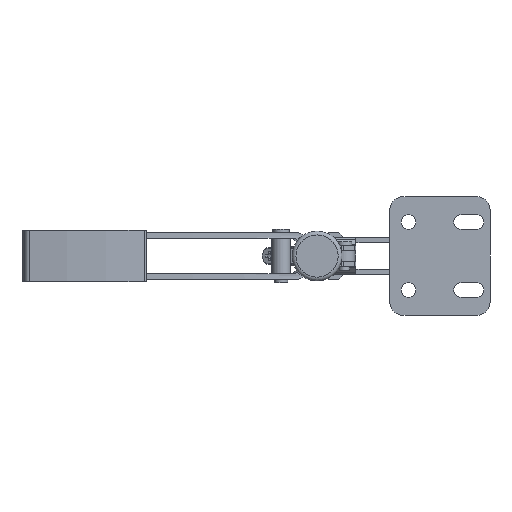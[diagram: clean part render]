
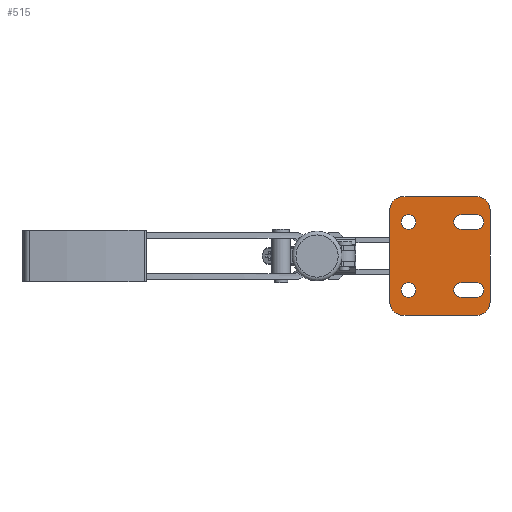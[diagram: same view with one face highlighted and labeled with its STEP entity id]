
A CAD part, left-side view. The second image highlights one B-rep face of the part: STEP entity #515.
In plain terms, the highlighted planar face has unit normal (-1, 0, 0).
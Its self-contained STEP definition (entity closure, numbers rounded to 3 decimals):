
#515 = ADVANCED_FACE( '', ( #1055, #1056, #1057, #1058, #1059 ), #1060, .T. );
#1055 = FACE_BOUND( '', #2075, .T. );
#1056 = FACE_BOUND( '', #2076, .T. );
#1057 = FACE_BOUND( '', #2077, .T. );
#1058 = FACE_BOUND( '', #2078, .T. );
#1059 = FACE_OUTER_BOUND( '', #2079, .T. );
#1060 = PLANE( '', #2080 );
#2075 = EDGE_LOOP( '', ( #3743 ) );
#2076 = EDGE_LOOP( '', ( #3744 ) );
#2077 = EDGE_LOOP( '', ( #3745, #3746, #3747, #3748 ) );
#2078 = EDGE_LOOP( '', ( #3749, #3750, #3751, #3752 ) );
#2079 = EDGE_LOOP( '', ( #3753, #3754, #3755, #3756, #3757, #3758, #3759, #3760 ) );
#2080 = AXIS2_PLACEMENT_3D( '', #3761, #3762, #3763 );
#3743 = ORIENTED_EDGE( '', *, *, #6968, .F. );
#3744 = ORIENTED_EDGE( '', *, *, #6969, .F. );
#3745 = ORIENTED_EDGE( '', *, *, #6970, .F. );
#3746 = ORIENTED_EDGE( '', *, *, #6971, .F. );
#3747 = ORIENTED_EDGE( '', *, *, #6972, .F. );
#3748 = ORIENTED_EDGE( '', *, *, #6973, .F. );
#3749 = ORIENTED_EDGE( '', *, *, #6974, .F. );
#3750 = ORIENTED_EDGE( '', *, *, #6975, .F. );
#3751 = ORIENTED_EDGE( '', *, *, #6976, .F. );
#3752 = ORIENTED_EDGE( '', *, *, #6977, .F. );
#3753 = ORIENTED_EDGE( '', *, *, #6978, .T. );
#3754 = ORIENTED_EDGE( '', *, *, #6979, .T. );
#3755 = ORIENTED_EDGE( '', *, *, #6980, .T. );
#3756 = ORIENTED_EDGE( '', *, *, #6981, .T. );
#3757 = ORIENTED_EDGE( '', *, *, #6982, .T. );
#3758 = ORIENTED_EDGE( '', *, *, #6983, .T. );
#3759 = ORIENTED_EDGE( '', *, *, #6984, .T. );
#3760 = ORIENTED_EDGE( '', *, *, #6985, .T. );
#3761 = CARTESIAN_POINT( '', ( -2., -15.896, -17.535 ) );
#3762 = DIRECTION( '', ( -1., 0., 0. ) );
#3763 = DIRECTION( '', ( 0., 0., 1. ) );
#6968 = EDGE_CURVE( '', #8418, #8418, #8419, .T. );
#6969 = EDGE_CURVE( '', #8420, #8420, #8421, .T. );
#6970 = EDGE_CURVE( '', #8422, #8423, #8424, .T. );
#6971 = EDGE_CURVE( '', #8425, #8422, #8426, .T. );
#6972 = EDGE_CURVE( '', #8427, #8425, #8428, .T. );
#6973 = EDGE_CURVE( '', #8423, #8427, #8429, .T. );
#6974 = EDGE_CURVE( '', #8430, #8431, #8432, .T. );
#6975 = EDGE_CURVE( '', #8433, #8430, #8434, .T. );
#6976 = EDGE_CURVE( '', #8435, #8433, #8436, .T. );
#6977 = EDGE_CURVE( '', #8431, #8435, #8437, .T. );
#6978 = EDGE_CURVE( '', #8438, #8439, #8440, .T. );
#6979 = EDGE_CURVE( '', #8439, #8441, #8442, .T. );
#6980 = EDGE_CURVE( '', #8441, #8443, #8444, .T. );
#6981 = EDGE_CURVE( '', #8443, #8445, #8446, .T. );
#6982 = EDGE_CURVE( '', #8445, #8447, #8448, .T. );
#6983 = EDGE_CURVE( '', #8447, #8449, #8450, .T. );
#6984 = EDGE_CURVE( '', #8449, #8451, #8452, .T. );
#6985 = EDGE_CURVE( '', #8451, #8438, #8453, .T. );
#8418 = VERTEX_POINT( '', #10643 );
#8419 = CIRCLE( '', #10644, 2.8 );
#8420 = VERTEX_POINT( '', #10645 );
#8421 = CIRCLE( '', #10646, 2.8 );
#8422 = VERTEX_POINT( '', #10647 );
#8423 = VERTEX_POINT( '', #10648 );
#8424 = LINE( '', #10649, #10650 );
#8425 = VERTEX_POINT( '', #10651 );
#8426 = CIRCLE( '', #10652, 2.8 );
#8427 = VERTEX_POINT( '', #10653 );
#8428 = LINE( '', #10654, #10655 );
#8429 = CIRCLE( '', #10656, 2.8 );
#8430 = VERTEX_POINT( '', #10657 );
#8431 = VERTEX_POINT( '', #10658 );
#8432 = LINE( '', #10659, #10660 );
#8433 = VERTEX_POINT( '', #10661 );
#8434 = CIRCLE( '', #10662, 2.8 );
#8435 = VERTEX_POINT( '', #10663 );
#8436 = LINE( '', #10664, #10665 );
#8437 = CIRCLE( '', #10666, 2.8 );
#8438 = VERTEX_POINT( '', #10667 );
#8439 = VERTEX_POINT( '', #10668 );
#8440 = LINE( '', #10669, #10670 );
#8441 = VERTEX_POINT( '', #10671 );
#8442 = CIRCLE( '', #10672, 5. );
#8443 = VERTEX_POINT( '', #10673 );
#8444 = LINE( '', #10674, #10675 );
#8445 = VERTEX_POINT( '', #10676 );
#8446 = CIRCLE( '', #10677, 5. );
#8447 = VERTEX_POINT( '', #10678 );
#8448 = LINE( '', #10679, #10680 );
#8449 = VERTEX_POINT( '', #10681 );
#8450 = CIRCLE( '', #10682, 5. );
#8451 = VERTEX_POINT( '', #10683 );
#8452 = LINE( '', #10684, #10685 );
#8453 = CIRCLE( '', #10686, 5. );
#10643 = CARTESIAN_POINT( '', ( -2., -20.792, 12.959 ) );
#10644 = AXIS2_PLACEMENT_3D( '', #13126, #13127, #13128 );
#10645 = CARTESIAN_POINT( '', ( -2., -20.792, -12.941 ) );
#10646 = AXIS2_PLACEMENT_3D( '', #13129, #13130, #13131 );
#10647 = CARTESIAN_POINT( '', ( -2., -43.892, 15.759 ) );
#10648 = CARTESIAN_POINT( '', ( -2., -37.992, 15.759 ) );
#10649 = CARTESIAN_POINT( '', ( -2., -43.892, 15.759 ) );
#10650 = VECTOR( '', #13132, 1000. );
#10651 = CARTESIAN_POINT( '', ( -2., -43.892, 10.159 ) );
#10652 = AXIS2_PLACEMENT_3D( '', #13133, #13134, #13135 );
#10653 = CARTESIAN_POINT( '', ( -2., -37.992, 10.159 ) );
#10654 = CARTESIAN_POINT( '', ( -2., -37.992, 10.159 ) );
#10655 = VECTOR( '', #13136, 1000. );
#10656 = AXIS2_PLACEMENT_3D( '', #13137, #13138, #13139 );
#10657 = CARTESIAN_POINT( '', ( -2., -43.892, -10.141 ) );
#10658 = CARTESIAN_POINT( '', ( -2., -37.992, -10.141 ) );
#10659 = CARTESIAN_POINT( '', ( -2., -43.892, -10.141 ) );
#10660 = VECTOR( '', #13140, 1000. );
#10661 = CARTESIAN_POINT( '', ( -2., -43.892, -15.741 ) );
#10662 = AXIS2_PLACEMENT_3D( '', #13141, #13142, #13143 );
#10663 = CARTESIAN_POINT( '', ( -2., -37.992, -15.741 ) );
#10664 = CARTESIAN_POINT( '', ( -2., -37.992, -15.741 ) );
#10665 = VECTOR( '', #13144, 1000. );
#10666 = AXIS2_PLACEMENT_3D( '', #13145, #13146, #13147 );
#10667 = CARTESIAN_POINT( '', ( -2., -10.896, 17.553 ) );
#10668 = CARTESIAN_POINT( '', ( -2., -10.896, -17.535 ) );
#10669 = CARTESIAN_POINT( '', ( -2., -10.896, 17.553 ) );
#10670 = VECTOR( '', #13148, 1000. );
#10671 = CARTESIAN_POINT( '', ( -2., -15.896, -22.535 ) );
#10672 = AXIS2_PLACEMENT_3D( '', #13149, #13150, #13151 );
#10673 = CARTESIAN_POINT( '', ( -2., -43.992, -22.535 ) );
#10674 = CARTESIAN_POINT( '', ( -2., -15.896, -22.535 ) );
#10675 = VECTOR( '', #13152, 1000. );
#10676 = CARTESIAN_POINT( '', ( -2., -48.992, -17.535 ) );
#10677 = AXIS2_PLACEMENT_3D( '', #13153, #13154, #13155 );
#10678 = CARTESIAN_POINT( '', ( -2., -48.992, 17.553 ) );
#10679 = CARTESIAN_POINT( '', ( -2., -48.992, -17.535 ) );
#10680 = VECTOR( '', #13156, 1000. );
#10681 = CARTESIAN_POINT( '', ( -2., -43.992, 22.553 ) );
#10682 = AXIS2_PLACEMENT_3D( '', #13157, #13158, #13159 );
#10683 = CARTESIAN_POINT( '', ( -2., -15.896, 22.553 ) );
#10684 = CARTESIAN_POINT( '', ( -2., -43.992, 22.553 ) );
#10685 = VECTOR( '', #13160, 1000. );
#10686 = AXIS2_PLACEMENT_3D( '', #13161, #13162, #13163 );
#13126 = CARTESIAN_POINT( '', ( -2., -17.992, 12.959 ) );
#13127 = DIRECTION( '', ( -1., 0., 0. ) );
#13128 = DIRECTION( '', ( 0., -1., 0. ) );
#13129 = CARTESIAN_POINT( '', ( -2., -17.992, -12.941 ) );
#13130 = DIRECTION( '', ( -1., 0., 0. ) );
#13131 = DIRECTION( '', ( 0., -1., 0. ) );
#13132 = DIRECTION( '', ( 0., 1., 0. ) );
#13133 = CARTESIAN_POINT( '', ( -2., -43.892, 12.959 ) );
#13134 = DIRECTION( '', ( -1., 0., 0. ) );
#13135 = DIRECTION( '', ( 0., -1., 0. ) );
#13136 = DIRECTION( '', ( 0., -1., 0. ) );
#13137 = CARTESIAN_POINT( '', ( -2., -37.992, 12.959 ) );
#13138 = DIRECTION( '', ( -1., 0., 0. ) );
#13139 = DIRECTION( '', ( 0., -1., 0. ) );
#13140 = DIRECTION( '', ( 0., 1., 0. ) );
#13141 = CARTESIAN_POINT( '', ( -2., -43.892, -12.941 ) );
#13142 = DIRECTION( '', ( -1., 0., 0. ) );
#13143 = DIRECTION( '', ( 0., -1., 0. ) );
#13144 = DIRECTION( '', ( 0., -1., 0. ) );
#13145 = CARTESIAN_POINT( '', ( -2., -37.992, -12.941 ) );
#13146 = DIRECTION( '', ( -1., 0., 0. ) );
#13147 = DIRECTION( '', ( 0., -1., 0. ) );
#13148 = DIRECTION( '', ( 0., 0., -1. ) );
#13149 = CARTESIAN_POINT( '', ( -2., -15.896, -17.535 ) );
#13150 = DIRECTION( '', ( -1., 0., 0. ) );
#13151 = DIRECTION( '', ( 0., -1., 0. ) );
#13152 = DIRECTION( '', ( 0., -1., 0. ) );
#13153 = CARTESIAN_POINT( '', ( -2., -43.992, -17.535 ) );
#13154 = DIRECTION( '', ( -1., 0., 0. ) );
#13155 = DIRECTION( '', ( 0., -1., 0. ) );
#13156 = DIRECTION( '', ( 0., 0., 1. ) );
#13157 = CARTESIAN_POINT( '', ( -2., -43.992, 17.553 ) );
#13158 = DIRECTION( '', ( -1., 0., 0. ) );
#13159 = DIRECTION( '', ( 0., -1., 0. ) );
#13160 = DIRECTION( '', ( 0., 1., 0. ) );
#13161 = CARTESIAN_POINT( '', ( -2., -15.896, 17.553 ) );
#13162 = DIRECTION( '', ( -1., 0., 0. ) );
#13163 = DIRECTION( '', ( 0., -1., 0. ) );
